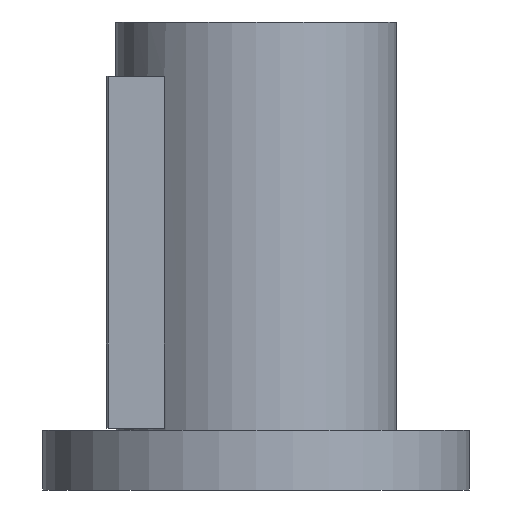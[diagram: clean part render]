
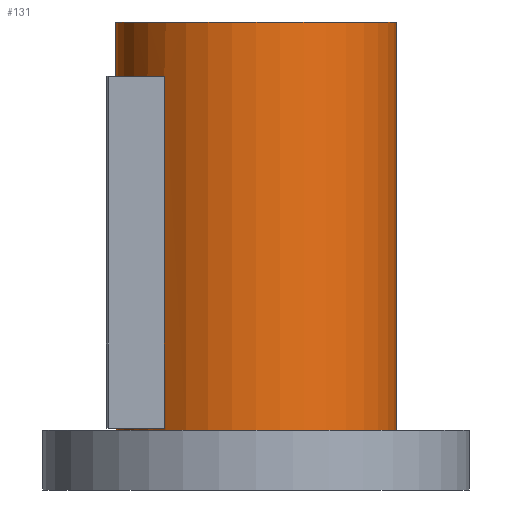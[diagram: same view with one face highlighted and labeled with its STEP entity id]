
A CAD part, front view. The second image highlights one B-rep face of the part: STEP entity #131.
In plain terms, the highlighted cylindrical face has radius 75 mm (diameter 150 mm), a full revolution.
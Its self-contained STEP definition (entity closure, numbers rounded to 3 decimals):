
#131=ADVANCED_FACE('',(#218,#219,#220),#161,.T.);
#161=CYLINDRICAL_SURFACE('',#550,75.);
#174=LINE('',#752,#196);
#175=LINE('',#756,#197);
#196=VECTOR('',#612,1.);
#197=VECTOR('',#615,1.);
#218=FACE_BOUND('',#263,.T.);
#219=FACE_BOUND('',#264,.T.);
#220=FACE_BOUND('',#265,.T.);
#263=EDGE_LOOP('',(#325));
#264=EDGE_LOOP('',(#326));
#265=EDGE_LOOP('',(#327,#328,#329,#330));
#325=ORIENTED_EDGE('',*,*,#467,.F.);
#326=ORIENTED_EDGE('',*,*,#468,.T.);
#327=ORIENTED_EDGE('',*,*,#469,.F.);
#328=ORIENTED_EDGE('',*,*,#470,.F.);
#329=ORIENTED_EDGE('',*,*,#471,.T.);
#330=ORIENTED_EDGE('',*,*,#472,.F.);
#425=VERTEX_POINT('',#746);
#426=VERTEX_POINT('',#748);
#427=VERTEX_POINT('',#750);
#428=VERTEX_POINT('',#751);
#429=VERTEX_POINT('',#753);
#430=VERTEX_POINT('',#755);
#467=EDGE_CURVE('',#425,#425,#517,.T.);
#468=EDGE_CURVE('',#426,#426,#518,.T.);
#469=EDGE_CURVE('',#427,#428,#519,.T.);
#470=EDGE_CURVE('',#429,#427,#174,.T.);
#471=EDGE_CURVE('',#429,#430,#520,.T.);
#472=EDGE_CURVE('',#428,#430,#175,.T.);
#517=CIRCLE('',#546,75.);
#518=CIRCLE('',#547,75.);
#519=CIRCLE('',#548,75.);
#520=CIRCLE('',#549,75.);
#546=AXIS2_PLACEMENT_3D('',#745,#606,#607);
#547=AXIS2_PLACEMENT_3D('',#747,#608,#609);
#548=AXIS2_PLACEMENT_3D('',#749,#610,#611);
#549=AXIS2_PLACEMENT_3D('',#754,#613,#614);
#550=AXIS2_PLACEMENT_3D('',#757,#616,#617);
#606=DIRECTION('',(0.,0.,1.));
#607=DIRECTION('',(1.,0.,0.));
#608=DIRECTION('',(0.,0.,1.));
#609=DIRECTION('',(1.,0.,0.));
#610=DIRECTION('',(0.,0.,-1.));
#611=DIRECTION('',(-1.,0.,0.));
#612=DIRECTION('',(0.,0.,1.));
#613=DIRECTION('',(0.,0.,-1.));
#614=DIRECTION('',(-1.,0.,0.));
#615=DIRECTION('',(0.,0.,-1.));
#616=DIRECTION('',(0.,0.,-1.));
#617=DIRECTION('',(-1.,0.,0.));
#745=CARTESIAN_POINT('',(0.,0.,250.));
#746=CARTESIAN_POINT('',(75.,0.,250.));
#747=CARTESIAN_POINT('',(0.,0.,32.));
#748=CARTESIAN_POINT('',(75.,0.,32.));
#749=CARTESIAN_POINT('',(0.,0.,221.));
#750=CARTESIAN_POINT('',(-49.,-56.78,221.));
#751=CARTESIAN_POINT('',(-49.,56.78,221.));
#752=CARTESIAN_POINT('',(-49.,-56.78,250.));
#753=CARTESIAN_POINT('',(-49.,-56.78,33.));
#754=CARTESIAN_POINT('',(0.,0.,33.));
#755=CARTESIAN_POINT('',(-49.,56.78,33.));
#756=CARTESIAN_POINT('',(-49.,56.78,250.));
#757=CARTESIAN_POINT('',(0.,0.,250.));
